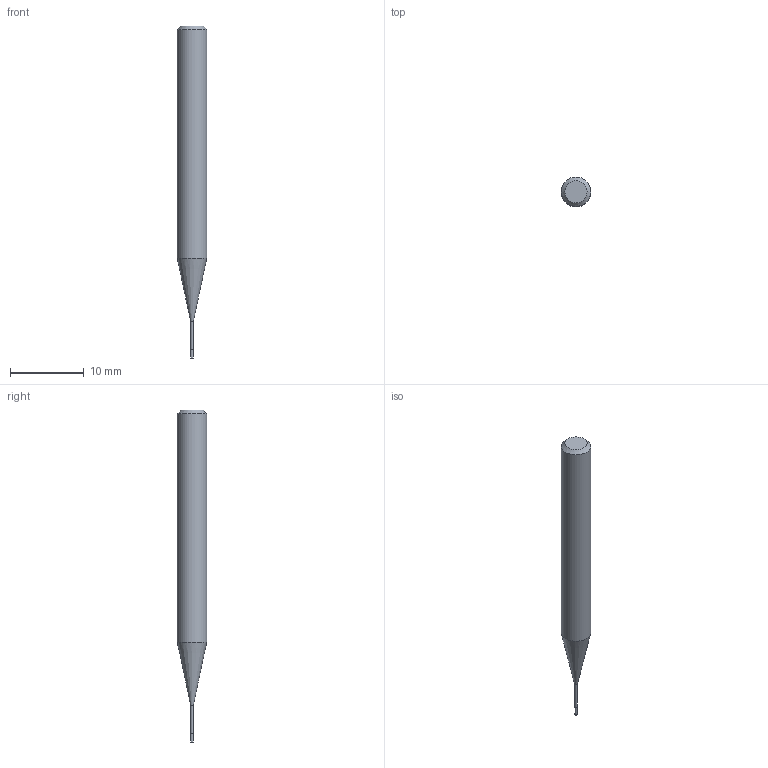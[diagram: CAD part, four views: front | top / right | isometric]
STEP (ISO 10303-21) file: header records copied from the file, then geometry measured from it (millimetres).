
FILE_DESCRIPTION((''),'2;1');
FILE_NAME('C:\Users\nsx150\Desktop\RSE230_20210427\01-00644-00405 RSE230 D0_4X1_2X5.step','2021-05-07T14:52:40',(''),(''),'STEP Write','Mastercam 2021 ... CNC Software, Inc.','');
FILE_SCHEMA(('AUTOMOTIVE_DESIGN'));
Length unit declared in the file: millimetre
Products named in the file (1): None
Bounding box: 4 x 4 x 45 mm (x, y, z)
Volume: 433.9 mm3; surface area: 470.1 mm2
Topology: 2 solids, 2 shells, 9 faces, 12 edges, 7 vertices
Faces by surface type: plane 4, cylinder 3, cone 2
Full cylindrical faces by diameter (mm): 0.37 x1, 0.4 x1, 4 x1
Entity records: 211 total; most frequent: DIRECTION 36, CARTESIAN_POINT 25, AXIS2_PLACEMENT_3D 18, ORIENTED_EDGE 14, EDGE_LOOP 14, STYLED_ITEM 12, ADVANCED_FACE 9, FACE_BOUND 8
